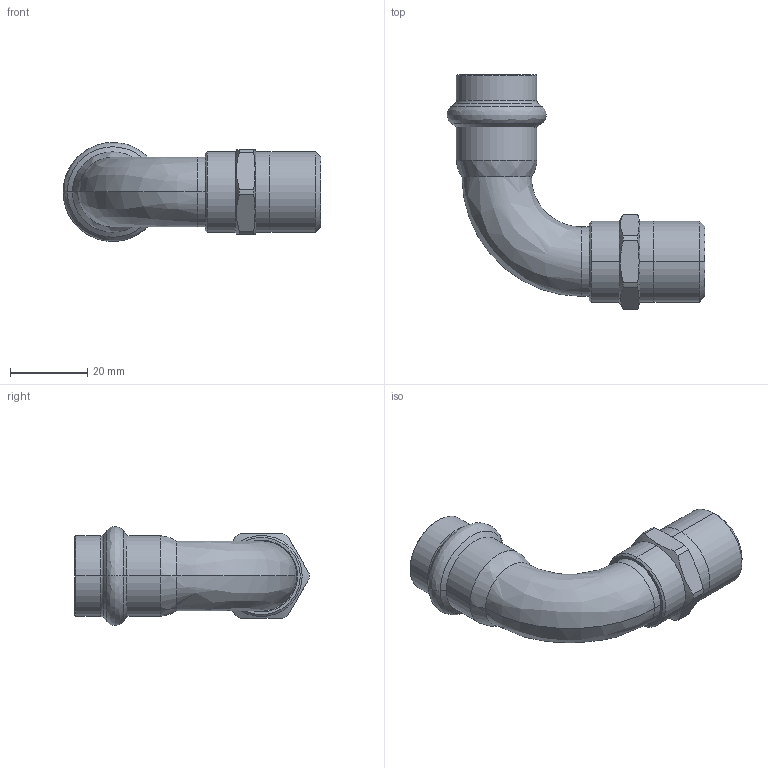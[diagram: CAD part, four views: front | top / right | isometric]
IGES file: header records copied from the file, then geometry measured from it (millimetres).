
Start section: Elysium IGES Interface
Global section: file name: C:\3d modellen sudo\C-Pr VP\SP8092GV\8092GVW1812.igs; native system: CoCreate Modeling 17.00A  17-Jun-2010; preprocessor: CoCreate IGES_3D V2.2; author: Unknown; organization: Unknown; date: 20130305.112233; units: millimetre
Bounding box: 66.85 x 60.73 x 25.68 mm (x, y, z)
Volume: 10638.9 mm3; surface area: 11352.1 mm2
Topology: 1 solids, 1 shells, 80 faces, 176 edges, 102 vertices
Faces by surface type: bspline 80
